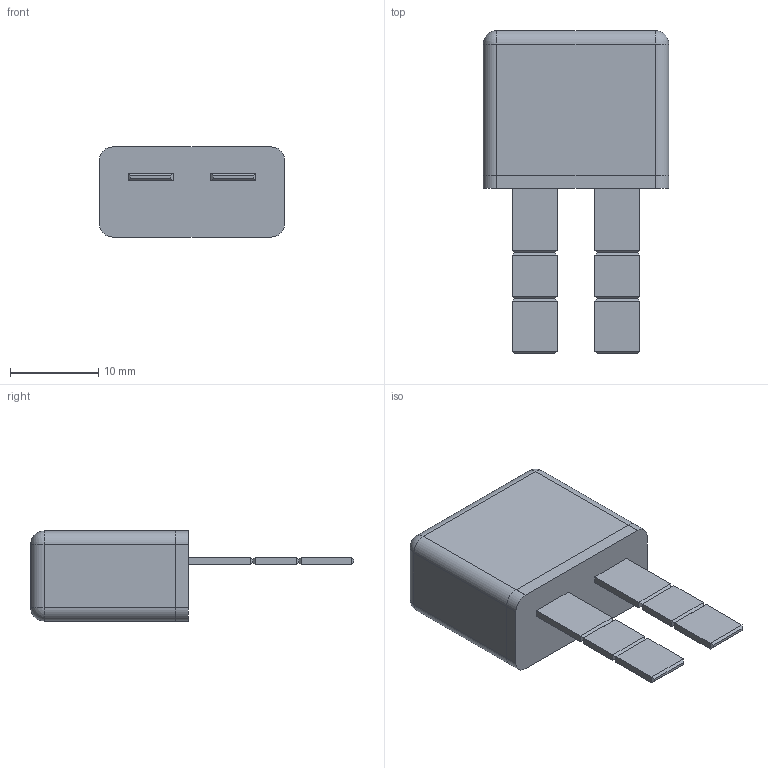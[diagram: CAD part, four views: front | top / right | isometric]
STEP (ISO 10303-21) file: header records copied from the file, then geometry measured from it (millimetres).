
FILE_DESCRIPTION(/* description */ (''),/* implementation_level */ '2;1');
FILE_NAME(/* name */ 'C:\Users\Hani\Desktop\work\MOCB2-PL3\MOCB2-PL3.stp',/* time_stamp */ '2022-02-01T08:57:42-08:00',/* author */ ('Hani'),/* organization */ (''),/* preprocessor_version */ 'ST-DEVELOPER v17',/* originating_system */ 'Autodesk Inventor 2019',/* authorisation */ '');
FILE_SCHEMA (('AUTOMOTIVE_DESIGN { 1 0 10303 214 3 1 1 }'));
Length unit declared in the file: millimetre
Products named in the file (1): MOCB2-PL3
Bounding box: 21 x 36.58 x 10.2 mm (x, y, z)
Volume: 4214.7 mm3; surface area: 2431.6 mm2
Topology: 2 solids, 2 shells, 238 faces, 592 edges, 372 vertices
Faces by surface type: plane 155, bspline 67, cylinder 12, sphere 4
Entity records: 7619 total; most frequent: CARTESIAN_POINT 2275, ORIENTED_EDGE 1184, DIRECTION 826, EDGE_CURVE 592, LINE 434, VECTOR 434, VERTEX_POINT 372, EDGE_LOOP 256
